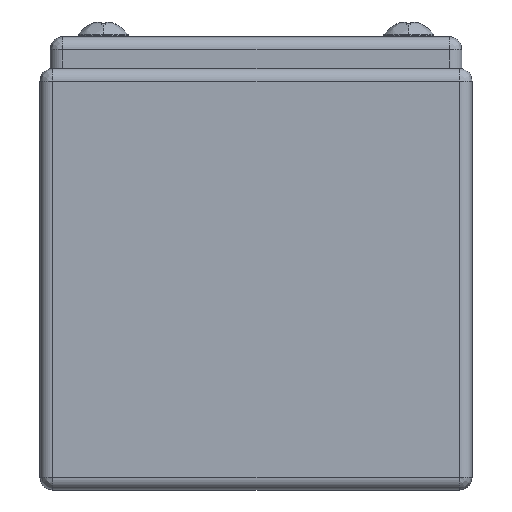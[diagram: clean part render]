
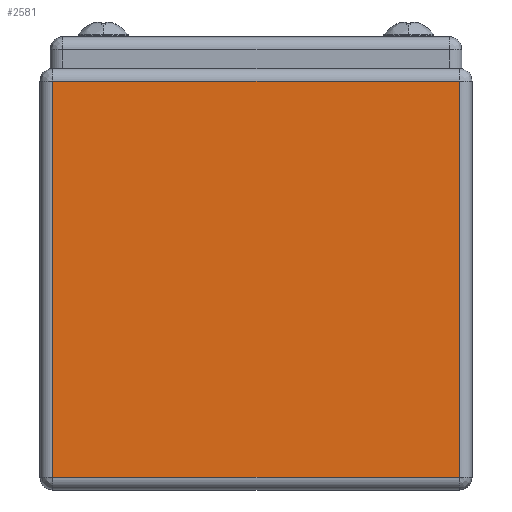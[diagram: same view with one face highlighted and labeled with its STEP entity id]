
A CAD part, left-side view. The second image highlights one B-rep face of the part: STEP entity #2581.
In plain terms, the highlighted planar face has unit normal (-1, 0, 0).
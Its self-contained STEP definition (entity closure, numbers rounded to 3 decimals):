
#558 = CARTESIAN_POINT ( 'NONE',  ( 0., 0., 78.8 ) ) ;
#642 = EDGE_CURVE ( 'NONE', #11233, #2691, #1615, .T. ) ;
#1615 = LINE ( 'NONE', #15748, #9599 ) ;
#2581 = ADVANCED_FACE ( 'NONE', ( #18712 ), #5283, .F. ) ;
#2691 = VERTEX_POINT ( 'NONE', #3716 ) ;
#3536 = DIRECTION ( 'NONE',  ( 0., -1., 0. ) ) ;
#3716 = CARTESIAN_POINT ( 'NONE',  ( 0., 79.6, 77.6 ) ) ;
#5283 = PLANE ( 'NONE',  #16568 ) ;
#5614 = DIRECTION ( 'NONE',  ( 0., 0., -1. ) ) ;
#6935 = DIRECTION ( 'NONE',  ( 0., 0., 1. ) ) ;
#7191 = ORIENTED_EDGE ( 'NONE', *, *, #7614, .F. ) ;
#7559 = EDGE_CURVE ( 'NONE', #8460, #11233, #8490, .T. ) ;
#7614 = EDGE_CURVE ( 'NONE', #16566, #8460, #13429, .T. ) ;
#8269 = CARTESIAN_POINT ( 'NONE',  ( 0., 0., 77.6 ) ) ;
#8460 = VERTEX_POINT ( 'NONE', #9543 ) ;
#8490 = LINE ( 'NONE', #15930, #14129 ) ;
#8510 = DIRECTION ( 'NONE',  ( 0., 1., 0. ) ) ;
#9138 = ORIENTED_EDGE ( 'NONE', *, *, #9928, .F. ) ;
#9543 = CARTESIAN_POINT ( 'NONE',  ( 0., 2.4, 2.4 ) ) ;
#9599 = VECTOR ( 'NONE', #6935, 1000. ) ;
#9928 = EDGE_CURVE ( 'NONE', #2691, #16566, #16303, .T. ) ;
#11233 = VERTEX_POINT ( 'NONE', #16244 ) ;
#11343 = CARTESIAN_POINT ( 'NONE',  ( 0., 2.4, 77.6 ) ) ;
#11521 = ORIENTED_EDGE ( 'NONE', *, *, #642, .F. ) ;
#11993 = ORIENTED_EDGE ( 'NONE', *, *, #7559, .F. ) ;
#12326 = VECTOR ( 'NONE', #3536, 1000. ) ;
#13119 = EDGE_LOOP ( 'NONE', ( #7191, #9138, #11521, #11993 ) ) ;
#13429 = LINE ( 'NONE', #16062, #16476 ) ;
#14129 = VECTOR ( 'NONE', #8510, 1000. ) ;
#14226 = DIRECTION ( 'NONE',  ( 0., 0., -1. ) ) ;
#15748 = CARTESIAN_POINT ( 'NONE',  ( 0., 79.6, 78.8 ) ) ;
#15930 = CARTESIAN_POINT ( 'NONE',  ( 0., 0., 2.4 ) ) ;
#16062 = CARTESIAN_POINT ( 'NONE',  ( 0., 2.4, 78.8 ) ) ;
#16244 = CARTESIAN_POINT ( 'NONE',  ( 0., 79.6, 2.4 ) ) ;
#16303 = LINE ( 'NONE', #8269, #12326 ) ;
#16476 = VECTOR ( 'NONE', #5614, 1000. ) ;
#16566 = VERTEX_POINT ( 'NONE', #11343 ) ;
#16568 = AXIS2_PLACEMENT_3D ( 'NONE', #558, #17371, #14226 ) ;
#17371 = DIRECTION ( 'NONE',  ( 1., 0., 0. ) ) ;
#18712 = FACE_OUTER_BOUND ( 'NONE', #13119, .T. ) ;
